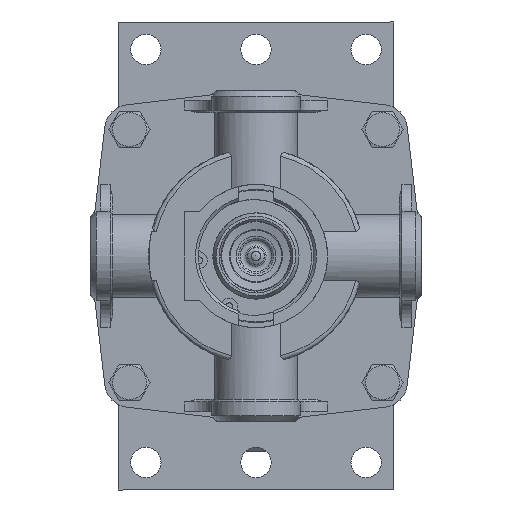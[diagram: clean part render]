
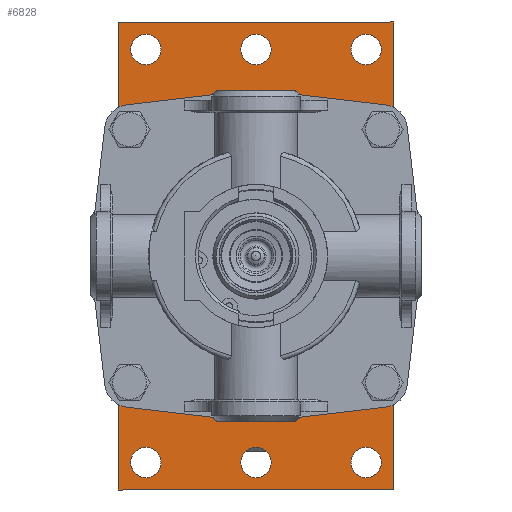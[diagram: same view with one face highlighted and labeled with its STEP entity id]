
A CAD part, front view. The second image highlights one B-rep face of the part: STEP entity #6828.
In plain terms, the highlighted planar face has unit normal (0, -1, 0).
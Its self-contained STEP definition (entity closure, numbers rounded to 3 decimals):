
#999=LINE('',#44870,#2554);
#1003=LINE('',#44878,#2558);
#1006=LINE('',#44884,#2561);
#1008=LINE('',#44887,#2563);
#1009=LINE('',#44917,#2564);
#1010=LINE('',#44919,#2565);
#1011=LINE('',#44923,#2566);
#1012=LINE('',#44925,#2567);
#1013=LINE('',#44929,#2568);
#1014=LINE('',#44931,#2569);
#1015=LINE('',#44935,#2570);
#1016=LINE('',#44937,#2571);
#2554=VECTOR('',#29333,1.);
#2558=VECTOR('',#29339,1.);
#2561=VECTOR('',#29344,1.);
#2563=VECTOR('',#29348,1.);
#2564=VECTOR('',#29383,1.);
#2565=VECTOR('',#29384,1.);
#2566=VECTOR('',#29387,1.);
#2567=VECTOR('',#29388,1.);
#2568=VECTOR('',#29391,1.);
#2569=VECTOR('',#29392,1.);
#2570=VECTOR('',#29395,1.);
#2571=VECTOR('',#29396,1.);
#6828=ADVANCED_FACE('',(#8616,#8617,#8618,#8619,#8620,#8621,#8622,#8623),
#7979,.T.);
#7979=PLANE('',#25447);
#8616=FACE_BOUND('',#10019,.T.);
#8617=FACE_BOUND('',#10020,.T.);
#8618=FACE_BOUND('',#10021,.T.);
#8619=FACE_BOUND('',#10022,.T.);
#8620=FACE_BOUND('',#10023,.T.);
#8621=FACE_BOUND('',#10024,.T.);
#8622=FACE_BOUND('',#10025,.T.);
#8623=FACE_BOUND('',#10026,.T.);
#10019=EDGE_LOOP('',(#14388,#14389,#14390,#14391,#14392,#14393,#14394,#14395,
#14396,#14397,#14398,#14399));
#10020=EDGE_LOOP('',(#14400,#14401,#14402,#14403));
#10021=EDGE_LOOP('',(#14404));
#10022=EDGE_LOOP('',(#14405));
#10023=EDGE_LOOP('',(#14406));
#10024=EDGE_LOOP('',(#14407));
#10025=EDGE_LOOP('',(#14408));
#10026=EDGE_LOOP('',(#14409));
#14388=ORIENTED_EDGE('',*,*,#21956,.F.);
#14389=ORIENTED_EDGE('',*,*,#21957,.F.);
#14390=ORIENTED_EDGE('',*,*,#21958,.F.);
#14391=ORIENTED_EDGE('',*,*,#21959,.F.);
#14392=ORIENTED_EDGE('',*,*,#21960,.F.);
#14393=ORIENTED_EDGE('',*,*,#21961,.F.);
#14394=ORIENTED_EDGE('',*,*,#21962,.F.);
#14395=ORIENTED_EDGE('',*,*,#21963,.F.);
#14396=ORIENTED_EDGE('',*,*,#21964,.F.);
#14397=ORIENTED_EDGE('',*,*,#21965,.F.);
#14398=ORIENTED_EDGE('',*,*,#21966,.F.);
#14399=ORIENTED_EDGE('',*,*,#21967,.F.);
#14400=ORIENTED_EDGE('',*,*,#21945,.T.);
#14401=ORIENTED_EDGE('',*,*,#21936,.T.);
#14402=ORIENTED_EDGE('',*,*,#21940,.T.);
#14403=ORIENTED_EDGE('',*,*,#21943,.T.);
#14404=ORIENTED_EDGE('',*,*,#21946,.F.);
#14405=ORIENTED_EDGE('',*,*,#21948,.F.);
#14406=ORIENTED_EDGE('',*,*,#21950,.F.);
#14407=ORIENTED_EDGE('',*,*,#21952,.F.);
#14408=ORIENTED_EDGE('',*,*,#21954,.F.);
#14409=ORIENTED_EDGE('',*,*,#21968,.F.);
#19039=VERTEX_POINT('',#44869);
#19040=VERTEX_POINT('',#44871);
#19042=VERTEX_POINT('',#44877);
#19044=VERTEX_POINT('',#44883);
#19045=VERTEX_POINT('',#44890);
#19047=VERTEX_POINT('',#44895);
#19049=VERTEX_POINT('',#44900);
#19051=VERTEX_POINT('',#44905);
#19053=VERTEX_POINT('',#44910);
#19055=VERTEX_POINT('',#44915);
#19056=VERTEX_POINT('',#44916);
#19057=VERTEX_POINT('',#44918);
#19058=VERTEX_POINT('',#44920);
#19059=VERTEX_POINT('',#44922);
#19060=VERTEX_POINT('',#44924);
#19061=VERTEX_POINT('',#44926);
#19062=VERTEX_POINT('',#44928);
#19063=VERTEX_POINT('',#44930);
#19064=VERTEX_POINT('',#44932);
#19065=VERTEX_POINT('',#44934);
#19066=VERTEX_POINT('',#44936);
#19067=VERTEX_POINT('',#44939);
#21936=EDGE_CURVE('',#19040,#19039,#999,.T.);
#21940=EDGE_CURVE('',#19039,#19042,#1003,.T.);
#21943=EDGE_CURVE('',#19042,#19044,#1006,.T.);
#21945=EDGE_CURVE('',#19044,#19040,#1008,.T.);
#21946=EDGE_CURVE('',#19045,#19045,#23952,.T.);
#21948=EDGE_CURVE('',#19047,#19047,#23954,.T.);
#21950=EDGE_CURVE('',#19049,#19049,#23956,.T.);
#21952=EDGE_CURVE('',#19051,#19051,#23958,.T.);
#21954=EDGE_CURVE('',#19053,#19053,#23960,.T.);
#21956=EDGE_CURVE('',#19055,#19056,#23962,.T.);
#21957=EDGE_CURVE('',#19057,#19055,#1009,.T.);
#21958=EDGE_CURVE('',#19058,#19057,#1010,.T.);
#21959=EDGE_CURVE('',#19059,#19058,#23963,.T.);
#21960=EDGE_CURVE('',#19060,#19059,#1011,.T.);
#21961=EDGE_CURVE('',#19061,#19060,#1012,.T.);
#21962=EDGE_CURVE('',#19062,#19061,#23964,.T.);
#21963=EDGE_CURVE('',#19063,#19062,#1013,.T.);
#21964=EDGE_CURVE('',#19064,#19063,#1014,.T.);
#21965=EDGE_CURVE('',#19065,#19064,#23965,.T.);
#21966=EDGE_CURVE('',#19066,#19065,#1015,.T.);
#21967=EDGE_CURVE('',#19056,#19066,#1016,.T.);
#21968=EDGE_CURVE('',#19067,#19067,#23966,.T.);
#23952=CIRCLE('',#25427,5.5);
#23954=CIRCLE('',#25430,5.5);
#23956=CIRCLE('',#25433,5.5);
#23958=CIRCLE('',#25436,5.5);
#23960=CIRCLE('',#25439,5.5);
#23962=CIRCLE('',#25442,8.);
#23963=CIRCLE('',#25443,8.);
#23964=CIRCLE('',#25444,8.);
#23965=CIRCLE('',#25445,8.);
#23966=CIRCLE('',#25446,5.5);
#25427=AXIS2_PLACEMENT_3D('',#44889,#29351,#29352);
#25430=AXIS2_PLACEMENT_3D('',#44894,#29357,#29358);
#25433=AXIS2_PLACEMENT_3D('',#44899,#29363,#29364);
#25436=AXIS2_PLACEMENT_3D('',#44904,#29369,#29370);
#25439=AXIS2_PLACEMENT_3D('',#44909,#29375,#29376);
#25442=AXIS2_PLACEMENT_3D('',#44914,#29381,#29382);
#25443=AXIS2_PLACEMENT_3D('',#44921,#29385,#29386);
#25444=AXIS2_PLACEMENT_3D('',#44927,#29389,#29390);
#25445=AXIS2_PLACEMENT_3D('',#44933,#29393,#29394);
#25446=AXIS2_PLACEMENT_3D('',#44938,#29397,#29398);
#25447=AXIS2_PLACEMENT_3D('',#44940,#29399,#29400);
#29333=DIRECTION('',(0.,0.,-1.));
#29339=DIRECTION('',(1.,0.,0.));
#29344=DIRECTION('',(0.,0.,1.));
#29348=DIRECTION('',(-1.,0.,0.));
#29351=DIRECTION('',(0.,-1.,0.));
#29352=DIRECTION('',(0.,0.,-1.));
#29357=DIRECTION('',(0.,-1.,0.));
#29358=DIRECTION('',(0.,0.,-1.));
#29363=DIRECTION('',(0.,-1.,0.));
#29364=DIRECTION('',(0.,0.,-1.));
#29369=DIRECTION('',(0.,-1.,0.));
#29370=DIRECTION('',(0.,0.,-1.));
#29375=DIRECTION('',(0.,-1.,0.));
#29376=DIRECTION('',(0.,0.,-1.));
#29381=DIRECTION('',(0.,-1.,0.));
#29382=DIRECTION('',(-1.,0.,0.));
#29383=DIRECTION('',(-0.052,0.,0.999));
#29384=DIRECTION('',(0.052,0.,0.999));
#29385=DIRECTION('',(0.,-1.,0.));
#29386=DIRECTION('',(-1.,0.,0.));
#29387=DIRECTION('',(0.999,0.,0.052));
#29388=DIRECTION('',(0.999,0.,-0.052));
#29389=DIRECTION('',(0.,-1.,0.));
#29390=DIRECTION('',(-1.,0.,0.));
#29391=DIRECTION('',(0.052,0.,-0.999));
#29392=DIRECTION('',(-0.052,0.,-0.999));
#29393=DIRECTION('',(0.,-1.,0.));
#29394=DIRECTION('',(-1.,0.,0.));
#29395=DIRECTION('',(-0.999,0.,-0.052));
#29396=DIRECTION('',(-0.999,0.,0.052));
#29397=DIRECTION('',(0.,-1.,0.));
#29398=DIRECTION('',(0.,0.,-1.));
#29399=DIRECTION('',(0.,-1.,0.));
#29400=DIRECTION('',(0.,0.,-1.));
#44869=CARTESIAN_POINT('',(-50.,-48.4,-85.));
#44870=CARTESIAN_POINT('',(-50.,-48.4,85.));
#44871=CARTESIAN_POINT('',(-50.,-48.4,85.));
#44877=CARTESIAN_POINT('',(50.,-48.4,-85.));
#44878=CARTESIAN_POINT('',(-50.,-48.4,-85.));
#44883=CARTESIAN_POINT('',(50.,-48.4,85.));
#44884=CARTESIAN_POINT('',(50.,-48.4,-85.));
#44887=CARTESIAN_POINT('',(50.,-48.4,85.));
#44889=CARTESIAN_POINT('',(-40.,-48.4,75.));
#44890=CARTESIAN_POINT('',(-40.,-48.4,69.5));
#44894=CARTESIAN_POINT('',(0.,-48.4,75.));
#44895=CARTESIAN_POINT('',(0.,-48.4,69.5));
#44899=CARTESIAN_POINT('',(40.,-48.4,75.));
#44900=CARTESIAN_POINT('',(40.,-48.4,69.5));
#44904=CARTESIAN_POINT('',(-40.,-48.4,-75.));
#44905=CARTESIAN_POINT('',(-40.,-48.4,-80.5));
#44909=CARTESIAN_POINT('',(0.,-48.4,-75.));
#44910=CARTESIAN_POINT('',(0.,-48.4,-80.5));
#44914=CARTESIAN_POINT('',(30.406,-48.4,30.406));
#44915=CARTESIAN_POINT('',(38.395,-48.4,30.822));
#44916=CARTESIAN_POINT('',(30.822,-48.4,38.395));
#44917=CARTESIAN_POINT('',(40.,-48.4,0.));
#44918=CARTESIAN_POINT('',(40.,-48.4,0.));
#44919=CARTESIAN_POINT('',(38.395,-48.4,-30.822));
#44920=CARTESIAN_POINT('',(38.395,-48.4,-30.822));
#44921=CARTESIAN_POINT('',(30.406,-48.4,-30.406));
#44922=CARTESIAN_POINT('',(30.822,-48.4,-38.395));
#44923=CARTESIAN_POINT('',(0.,-48.4,-40.));
#44924=CARTESIAN_POINT('',(0.,-48.4,-40.));
#44925=CARTESIAN_POINT('',(-30.822,-48.4,-38.395));
#44926=CARTESIAN_POINT('',(-30.822,-48.4,-38.395));
#44927=CARTESIAN_POINT('',(-30.406,-48.4,-30.406));
#44928=CARTESIAN_POINT('',(-38.395,-48.4,-30.822));
#44929=CARTESIAN_POINT('',(-40.,-48.4,0.));
#44930=CARTESIAN_POINT('',(-40.,-48.4,0.));
#44931=CARTESIAN_POINT('',(-38.395,-48.4,30.822));
#44932=CARTESIAN_POINT('',(-38.395,-48.4,30.822));
#44933=CARTESIAN_POINT('',(-30.406,-48.4,30.406));
#44934=CARTESIAN_POINT('',(-30.822,-48.4,38.395));
#44935=CARTESIAN_POINT('',(0.,-48.4,40.));
#44936=CARTESIAN_POINT('',(0.,-48.4,40.));
#44937=CARTESIAN_POINT('',(30.822,-48.4,38.395));
#44938=CARTESIAN_POINT('',(40.,-48.4,-75.));
#44939=CARTESIAN_POINT('',(40.,-48.4,-80.5));
#44940=CARTESIAN_POINT('',(-40.,-48.4,75.));
